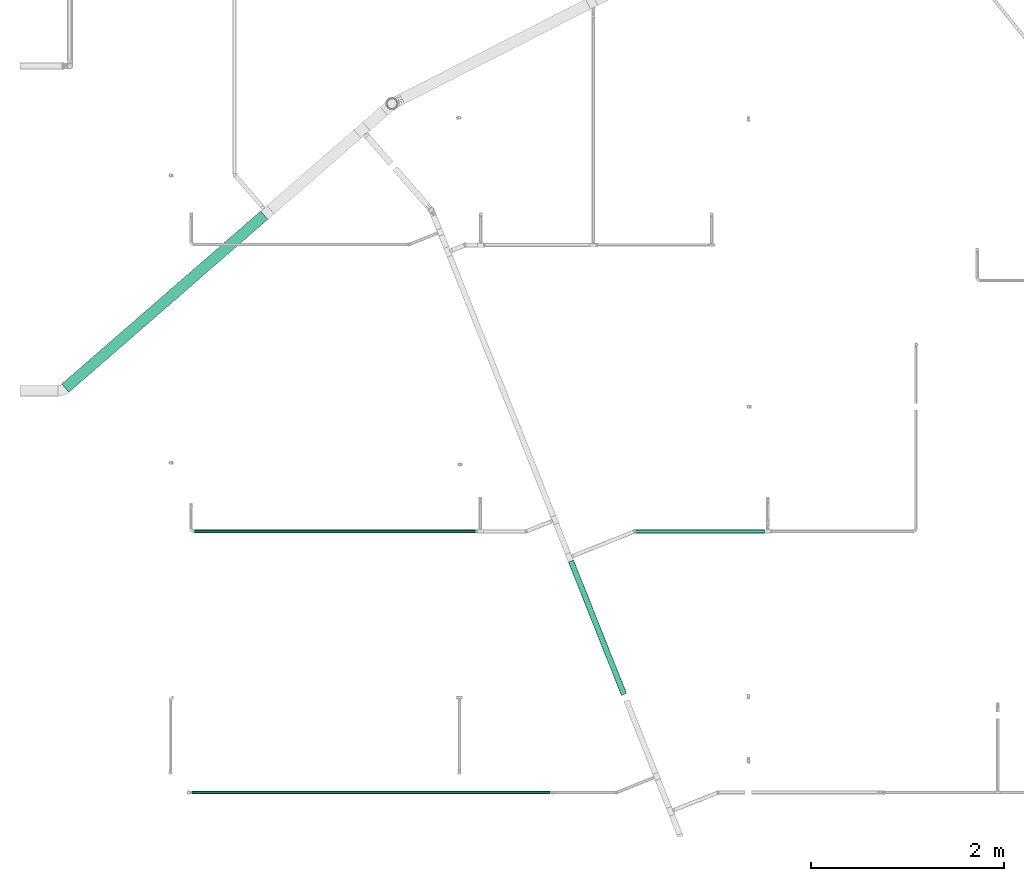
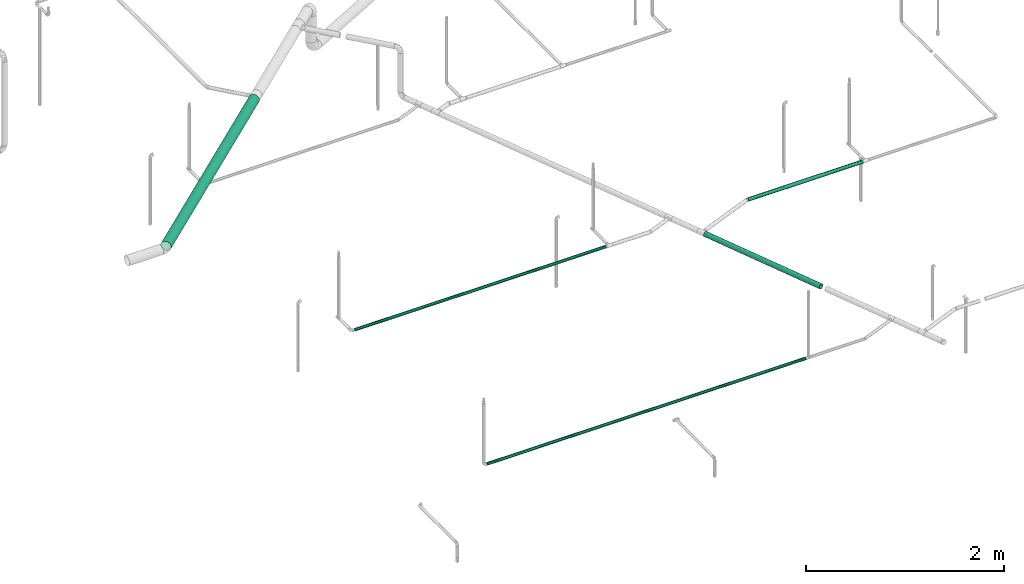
# One storey, part 1 of 94: 5 flow segments.
"""IFC2X3 building model written with IfcOpenShell, lengths in millimetres."""

from ifc_helpers import new_model, entity, si_unit, converted_unit, derived_unit, direction, frame, origin_with_axes, origin_2d_with_axis, place, context, subcontext, project, spatial, hollow_circle, extrude, source, transform, mapped, type_object, element, save


model = new_model("IFC2X3")

# Units and contexts
model_context = context("Model", 3, precision=0.01, world=frame((0.0, 4.29681676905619e-09, 0.0)), true_north=direction((4.01073788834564e-13, 1.0)))
plan_context = context("Plan", 3, precision=0.01, world=frame((0.0, 4.29681676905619e-09, 0.0)), true_north=direction((4.01073788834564e-13, 1.0)))
body_context = subcontext(model_context, "Body", "Model", "MODEL_VIEW")
ifc_project = project(units=[converted_unit("PLANEANGLEUNIT", "DEGREE", entity("IfcPositiveLengthMeasure", 0.0174532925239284), si_unit("PLANEANGLEUNIT", "RADIAN"), dimensions=[0, 0, 0, 0, 0, 0, 0]), si_unit("AREAUNIT", "SQUARE_METRE"), si_unit("LENGTHUNIT", "METRE", prefix="MILLI"), si_unit("MASSUNIT", "GRAM", prefix="KILO"), si_unit("POWERUNIT", "WATT"), si_unit("PRESSUREUNIT", "PASCAL", prefix="KILO"), si_unit("FORCEUNIT", "NEWTON", prefix="KILO"), si_unit("ELECTRICVOLTAGEUNIT", "VOLT"), si_unit("ELECTRICCURRENTUNIT", "AMPERE"), si_unit("THERMODYNAMICTEMPERATUREUNIT", "DEGREE_CELSIUS"), si_unit("TIMEUNIT", "SECOND"), si_unit("VOLUMEUNIT", "CUBIC_METRE"), derived_unit("LINEARVELOCITYUNIT", [(si_unit("LENGTHUNIT", "METRE"), 1), (si_unit("TIMEUNIT", "SECOND"), -1)]), derived_unit("VOLUMETRICFLOWRATEUNIT", [(si_unit("VOLUMEUNIT", "CUBIC_METRE"), 1), (si_unit("TIMEUNIT", "SECOND"), -1)]), derived_unit("THERMALTRANSMITTANCEUNIT", [(si_unit("POWERUNIT", "WATT"), 1), (si_unit("THERMODYNAMICTEMPERATUREUNIT", "KELVIN"), -1), (si_unit("AREAUNIT", "SQUARE_METRE"), -1)]), derived_unit("SOUNDPRESSUREUNIT", [(si_unit("PRESSUREUNIT", "PASCAL"), 1)])], contexts=[model_context, plan_context])

# Site, building, storey
site_placement = place(None, frame((0.0, -4.29681676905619e-09, 0.0), z_axis=(0.0, 0.0, 1.0), x_axis=(1.0, 0.0, 0.0)))
site = spatial("IfcSite", under=ifc_project, at=site_placement, CompositionType="ELEMENT")
building_placement = place(site_placement, frame((0.0, 4.29681676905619e-09, 0.0), z_axis=(0.0, 0.0, 1.0), x_axis=(1.0, 0.0, 0.0)))
building = spatial("IfcBuilding", under=site, at=building_placement, Name="mc-building", CompositionType="ELEMENT")
storey_placement = place(building_placement, frame((0.0, 0.0, 210900.0), z_axis=(0.0, 0.0, 1.0), x_axis=(1.0, 0.0, 0.0)))
storey = spatial("IfcBuildingStorey", under=building, at=storey_placement, Name="Nivå F", CompositionType="ELEMENT", Elevation=210900.0)

# Flow segments
pipe_segment_type = type_object("IfcPipeSegmentType", Name="Stålrør normaltykke", PredefinedType="RIGIDSEGMENT")
shared_shape_1 = source(origin_with_axes(), body_context, "Body", "SweptSolid", [
    extrude(hollow_circle(Radius=16.9, WallThickness=2.0, at=origin_2d_with_axis()), frame((0.0, 0.0, 0.0), z_axis=(1.0, 0.0, 0.0), x_axis=(0.0, 1.0, 0.0)), (0.0, 0.0, 1.0), 2926.1),
])
flow_segment_1_placement = place(storey_placement, frame((719173.37033, 437906.03424, 3600.0), z_axis=(0.0, 0.0, 1.0), x_axis=(-1.0, 0.0, 0.0)))
element("IfcFlowSegment", 1, at=flow_segment_1_placement, inside=storey, type_object=pipe_segment_type, Name="Stålrør normaltykke", context=body_context, shape_type="MappedRepresentation", body=[
    mapped(shared_shape_1, transform((0.0, 0.0, 0.0), scale=1.0)),
])
shared_shape_2 = source(origin_with_axes(), body_context, "Body", "SweptSolid", [
    extrude(hollow_circle(Radius=21.2, WallThickness=2.0, at=origin_2d_with_axis()), frame((0.0, 0.0, 0.0), z_axis=(1.0, 0.0, 0.0), x_axis=(0.0, 1.0, 0.0)), (0.0, 0.0, 1.0), 1338.6),
])
flow_segment_2_placement = place(storey_placement, frame((720829.14732, 437906.03424, 3600.0), z_axis=(0.0, 0.0, 1.0), x_axis=(1.0, 0.0, 0.0)))
element("IfcFlowSegment", 2, at=flow_segment_2_placement, inside=storey, type_object=pipe_segment_type, Name="Stålrør normaltykke", context=body_context, shape_type="MappedRepresentation", body=[
    mapped(shared_shape_2, transform((0.0, 0.0, 0.0), scale=1.0)),
])
shared_shape_3 = source(origin_with_axes(), body_context, "Body", "SweptSolid", [
    extrude(hollow_circle(Radius=16.9, WallThickness=2.0, at=origin_2d_with_axis()), frame((0.0, 0.0, 0.0), z_axis=(1.0, 0.0, 0.0), x_axis=(0.0, 1.0, 0.0)), (0.0, 0.0, 1.0), 3717.3),
])
flow_segment_3_placement = place(storey_placement, frame((719940.03068, 435194.37907, 3600.0), z_axis=(0.0, 0.0, 1.0), x_axis=(-1.0, 0.0, 0.0)))
element("IfcFlowSegment", 3, at=flow_segment_3_placement, inside=storey, type_object=pipe_segment_type, Name="Stålrør normaltykke", context=body_context, shape_type="MappedRepresentation", body=[
    mapped(shared_shape_3, transform((0.0, 0.0, 0.0), scale=1.0)),
])
shared_shape_4 = source(origin_with_axes(), body_context, "Body", "SweptSolid", [
    extrude(hollow_circle(Radius=57.1, WallThickness=2.0, at=origin_2d_with_axis()), frame((0.0, 0.0, 0.0), z_axis=(1.0, 0.0, 0.0), x_axis=(0.0, 1.0, 0.0)), (0.0, 0.0, 1.0), 2736.9),
])
flow_segment_4_placement = place(storey_placement, frame((714908.51644, 439393.15344, 4200.0), z_axis=(0.0, 0.0, 1.0), x_axis=(0.754709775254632, 0.65605880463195, 0.0)))
element("IfcFlowSegment", 4, at=flow_segment_4_placement, inside=storey, type_object=pipe_segment_type, Name="Stålrør normaltykke", context=body_context, shape_type="MappedRepresentation", body=[
    mapped(shared_shape_4, transform((0.0, 0.0, 0.0), scale=1.0)),
])
shared_shape_5 = source(origin_with_axes(), body_context, "Body", "SweptSolid", [
    extrude(hollow_circle(Radius=30.1, WallThickness=2.0, at=origin_2d_with_axis()), frame((0.0, 0.0, 0.0), z_axis=(1.0, 0.0, 0.0), x_axis=(0.0, 1.0, 0.0)), (0.0, 0.0, 1.0), 1489.9),
])
flow_segment_5_placement = place(storey_placement, frame((720158.20084, 437596.8784, 3600.0), z_axis=(0.0, 0.0, 1.0), x_axis=(0.369451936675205, -0.929249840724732, 0.0)))
element("IfcFlowSegment", 5, at=flow_segment_5_placement, inside=storey, type_object=pipe_segment_type, Name="Stålrør normaltykke", context=body_context, shape_type="MappedRepresentation", body=[
    mapped(shared_shape_5, transform((0.0, 0.0, 0.0), scale=1.0)),
])

save(model, "model.ifc")
